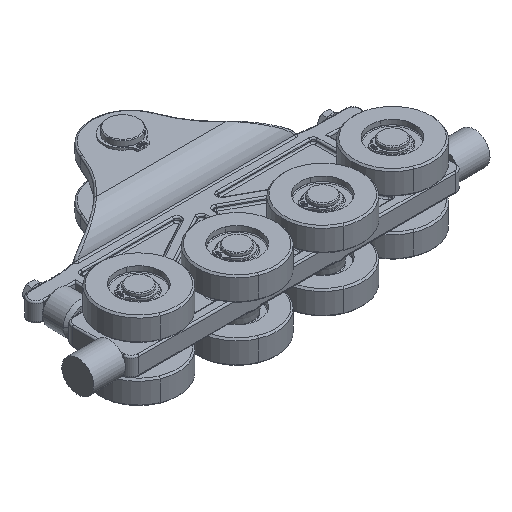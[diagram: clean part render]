
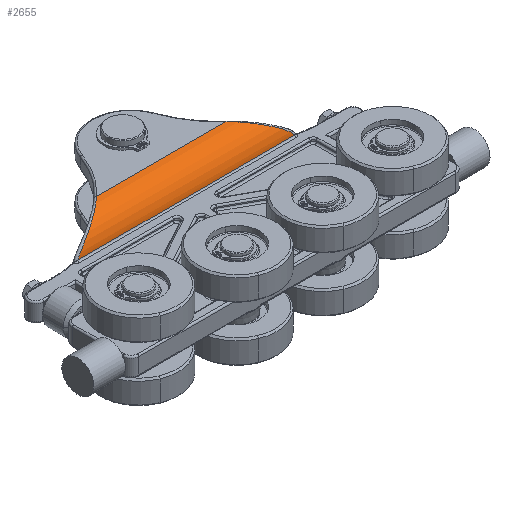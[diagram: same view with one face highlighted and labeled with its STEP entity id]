
A CAD part, isometric view. The second image highlights one B-rep face of the part: STEP entity #2655.
In plain terms, the highlighted cylindrical face has radius 16 mm (diameter 32 mm), a partial arc.
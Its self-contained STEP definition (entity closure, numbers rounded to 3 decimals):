
#204 = CARTESIAN_POINT ( 'NONE',  ( 21.457, 8.88, 12.824 ) ) ;
#1507 = CARTESIAN_POINT ( 'NONE',  ( -67.089, 15.091, 22.875 ) ) ;
#1627 = CARTESIAN_POINT ( 'NONE',  ( -81.962, 8.88, 12.824 ) ) ;
#1675 = CARTESIAN_POINT ( 'NONE',  ( 49.57, 10.596, 17.701 ) ) ;
#1781 = CARTESIAN_POINT ( 'NONE',  ( 31.737, 20.729, 25.547 ) ) ;
#1886 = LINE ( 'NONE', #25095, #27912 ) ;
#2090 = DIRECTION ( 'NONE',  ( 1., 0., 0. ) ) ;
#2655 = ADVANCED_FACE ( 'NONE', ( #11530 ), #17470, .T. ) ;
#3748 = EDGE_CURVE ( 'NONE', #13235, #3916, #1886, .T. ) ;
#3916 = VERTEX_POINT ( 'NONE', #12188 ) ;
#4048 = CARTESIAN_POINT ( 'NONE',  ( -70.687, 13.169, 21.198 ) ) ;
#4054 = CARTESIAN_POINT ( 'NONE',  ( 54.875, 8.88, 12.824 ) ) ;
#4197 = CARTESIAN_POINT ( 'NONE',  ( 47.195, 11.527, 19.228 ) ) ;
#4232 = ORIENTED_EDGE ( 'NONE', *, *, #12199, .T. ) ;
#4310 = CARTESIAN_POINT ( 'NONE',  ( 28.384, 23.594, 26. ) ) ;
#4616 = VECTOR ( 'NONE', #10363, 1000. ) ;
#4994 = CARTESIAN_POINT ( 'NONE',  ( -54.388, 24.628, 26. ) ) ;
#5386 = CARTESIAN_POINT ( 'NONE',  ( 21.457, 24.628, 10. ) ) ;
#6492 = CARTESIAN_POINT ( 'NONE',  ( 54.875, 8.88, 12.824 ) ) ;
#6559 = CARTESIAN_POINT ( 'NONE',  ( -74.282, 11.527, 19.228 ) ) ;
#6714 = CARTESIAN_POINT ( 'NONE',  ( 43.601, 13.169, 21.198 ) ) ;
#8630 = ORIENTED_EDGE ( 'NONE', *, *, #22425, .T. ) ;
#8999 = CARTESIAN_POINT ( 'NONE',  ( -58.824, 20.729, 25.547 ) ) ;
#9124 = CARTESIAN_POINT ( 'NONE',  ( -76.657, 10.596, 17.701 ) ) ;
#9262 = CARTESIAN_POINT ( 'NONE',  ( 40.002, 15.091, 22.875 ) ) ;
#10363 = DIRECTION ( 'NONE',  ( 1., 0., 0. ) ) ;
#11529 = CARTESIAN_POINT ( 'NONE',  ( -61.719, 18.555, 24.81 ) ) ;
#11530 = FACE_OUTER_BOUND ( 'NONE', #28865, .T. ) ;
#11632 = CARTESIAN_POINT ( 'NONE',  ( -78.4, 9.974, 16.441 ) ) ;
#11675 = CARTESIAN_POINT ( 'NONE',  ( 53.995, 9.127, 14. ) ) ;
#11784 = CARTESIAN_POINT ( 'NONE',  ( 37.009, 16.936, 24.036 ) ) ;
#12188 = CARTESIAN_POINT ( 'NONE',  ( 27.301, 24.628, 26. ) ) ;
#12199 = EDGE_CURVE ( 'NONE', #12757, #3916, #25446, .T. ) ;
#12757 = VERTEX_POINT ( 'NONE', #4054 ) ;
#13235 = VERTEX_POINT ( 'NONE', #4994 ) ;
#13451 = AXIS2_PLACEMENT_3D ( 'NONE', #5386, #17270, #29435 ) ;
#14084 = CARTESIAN_POINT ( 'NONE',  ( -63.496, 17.33, 24.246 ) ) ;
#14195 = CARTESIAN_POINT ( 'NONE',  ( -80.065, 9.433, 15.039 ) ) ;
#14250 = CARTESIAN_POINT ( 'NONE',  ( 52.433, 9.604, 15.524 ) ) ;
#14357 = CARTESIAN_POINT ( 'NONE',  ( 35.221, 18.14, 24.632 ) ) ;
#16635 = CARTESIAN_POINT ( 'NONE',  ( -65.891, 15.797, 23.371 ) ) ;
#16735 = CARTESIAN_POINT ( 'NONE',  ( -81.558, 8.991, 13.446 ) ) ;
#16777 = CARTESIAN_POINT ( 'NONE',  ( 50.739, 10.172, 16.873 ) ) ;
#16785 = ORIENTED_EDGE ( 'NONE', *, *, #30559, .T. ) ;
#16881 = CARTESIAN_POINT ( 'NONE',  ( 32.882, 19.834, 25.292 ) ) ;
#17270 = DIRECTION ( 'NONE',  ( 1., 0., 0. ) ) ;
#17470 = CYLINDRICAL_SURFACE ( 'NONE', #13451, 16. ) ;
#19156 = CARTESIAN_POINT ( 'NONE',  ( -69.487, 13.777, 21.789 ) ) ;
#19299 = CARTESIAN_POINT ( 'NONE',  ( 48.977, 10.821, 18.096 ) ) ;
#19410 = CARTESIAN_POINT ( 'NONE',  ( 29.488, 22.609, 25.901 ) ) ;
#20509 = B_SPLINE_CURVE_WITH_KNOTS ( 'NONE', 3,
 ( #21563, #23995, #24113, #8999, #26653, #11529, #29207, #14084, #31750, #16635, #1507, #19156, #4048, #21673, #6559, #24228, #9124, #26759, #11632, #29328, #14195, #31854, #16735, #1627 ),
 .UNSPECIFIED., .F., .F.,
 ( 4, 2, 2, 2, 2, 2, 2, 2, 2, 2, 2, 4 ),
 ( 0., 0.004, 0.009, 0.011, 0.013, 0.018, 0.022, 0.027, 0.029, 0.031, 0.033, 0.035 ),
 .UNSPECIFIED. ) ;
#21563 = CARTESIAN_POINT ( 'NONE',  ( -54.388, 24.628, 26. ) ) ;
#21673 = CARTESIAN_POINT ( 'NONE',  ( -73.085, 12.044, 19.917 ) ) ;
#21831 = CARTESIAN_POINT ( 'NONE',  ( 45.998, 12.044, 19.917 ) ) ;
#21932 = CARTESIAN_POINT ( 'NONE',  ( 27.301, 24.628, 26. ) ) ;
#22425 = EDGE_CURVE ( 'NONE', #13235, #31637, #20509, .T. ) ;
#22570 = ORIENTED_EDGE ( 'NONE', *, *, #3748, .F. ) ;
#23943 = LINE ( 'NONE', #204, #4616 ) ;
#23995 = CARTESIAN_POINT ( 'NONE',  ( -55.471, 23.594, 26. ) ) ;
#24113 = CARTESIAN_POINT ( 'NONE',  ( -56.575, 22.609, 25.901 ) ) ;
#24228 = CARTESIAN_POINT ( 'NONE',  ( -76.064, 10.821, 18.096 ) ) ;
#24370 = CARTESIAN_POINT ( 'NONE',  ( 42.4, 13.777, 21.789 ) ) ;
#25095 = CARTESIAN_POINT ( 'NONE',  ( 21.457, 24.628, 26. ) ) ;
#25446 = B_SPLINE_CURVE_WITH_KNOTS ( 'NONE', 3,
 ( #6492, #26799, #11675, #29368, #14250, #31897, #16777, #1675, #19299, #4197, #21831, #6714, #24370, #9262, #26912, #11784, #29470, #14357, #32011, #16881, #1781, #19410, #4310, #21932 ),
 .UNSPECIFIED., .F., .F.,
 ( 4, 2, 2, 2, 2, 2, 2, 2, 2, 2, 2, 4 ),
 ( 0.001, 0.003, 0.005, 0.008, 0.01, 0.015, 0.019, 0.024, 0.026, 0.028, 0.033, 0.037 ),
 .UNSPECIFIED. ) ;
#26653 = CARTESIAN_POINT ( 'NONE',  ( -59.969, 19.834, 25.292 ) ) ;
#26759 = CARTESIAN_POINT ( 'NONE',  ( -77.826, 10.172, 16.873 ) ) ;
#26799 = CARTESIAN_POINT ( 'NONE',  ( 54.471, 8.991, 13.446 ) ) ;
#26912 = CARTESIAN_POINT ( 'NONE',  ( 38.804, 15.797, 23.371 ) ) ;
#27912 = VECTOR ( 'NONE', #2090, 1000. ) ;
#28865 = EDGE_LOOP ( 'NONE', ( #8630, #16785, #4232, #22570 ) ) ;
#29207 = CARTESIAN_POINT ( 'NONE',  ( -62.308, 18.14, 24.632 ) ) ;
#29328 = CARTESIAN_POINT ( 'NONE',  ( -79.519, 9.604, 15.524 ) ) ;
#29368 = CARTESIAN_POINT ( 'NONE',  ( 52.978, 9.433, 15.039 ) ) ;
#29435 = DIRECTION ( 'NONE',  ( 0., 0., -1. ) ) ;
#29470 = CARTESIAN_POINT ( 'NONE',  ( 36.409, 17.33, 24.246 ) ) ;
#29478 = CARTESIAN_POINT ( 'NONE',  ( -81.962, 8.88, 12.824 ) ) ;
#30559 = EDGE_CURVE ( 'NONE', #31637, #12757, #23943, .T. ) ;
#31637 = VERTEX_POINT ( 'NONE', #29478 ) ;
#31750 = CARTESIAN_POINT ( 'NONE',  ( -64.096, 16.936, 24.036 ) ) ;
#31854 = CARTESIAN_POINT ( 'NONE',  ( -81.082, 9.127, 14. ) ) ;
#31897 = CARTESIAN_POINT ( 'NONE',  ( 51.314, 9.974, 16.441 ) ) ;
#32011 = CARTESIAN_POINT ( 'NONE',  ( 34.632, 18.555, 24.81 ) ) ;
